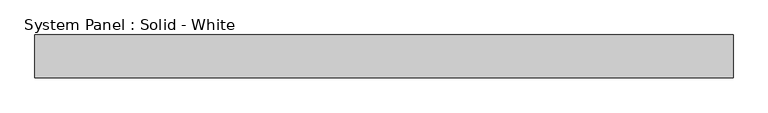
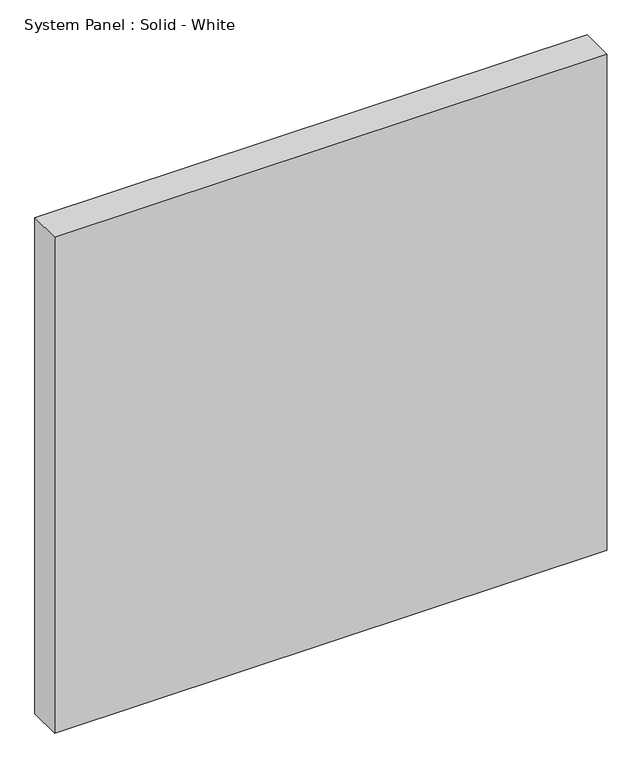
"""IFC4 building model written with IfcOpenShell, lengths in millimetres: plate geometry, System Panel : Solid - White."""

from ifc_helpers import new_model, si_unit, origin, origin_with_axes, place, context, project, spatial, polyline, outline, extrude, source, transform, mapped, element, save


def system_panel_solid_white_0ba96157(model_context):
    return source(origin(), model_context, "Body", "SweptSolid", [
        extrude(outline(polyline([(516.255, -44.45), (-516.255, -44.45), (-516.255, 19.05), (516.255, 19.05), (516.255, -44.45)])), origin_with_axes(), (0.0, 0.0, 1.0), 979.9108166),
    ])


if __name__ == "__main__":
    model = new_model("IFC4")
    model_context = context("Model", 3, world=origin())
    ifc_project = project(units=[si_unit("LENGTHUNIT", "METRE", prefix="MILLI")], contexts=[model_context])
    site = spatial("IfcSite", under=ifc_project)
    building = spatial("IfcBuilding", under=site)
    placement = place(None, origin())
    system_panel_solid_white_shape = system_panel_solid_white_0ba96157(model_context)
    element("IfcPlate", 1, ObjectType="System Panel : Solid - White", at=placement, inside=building, context=model_context, shape_type="MappedRepresentation", body=[
        mapped(system_panel_solid_white_shape, transform((0.0, 0.0, 0.0), x_axis=(1.0, 0.0, 0.0), y_axis=(0.0, 1.0, 0.0), z_axis=(0.0, 0.0, 1.0))),
    ])
    save(model, "model.ifc")
